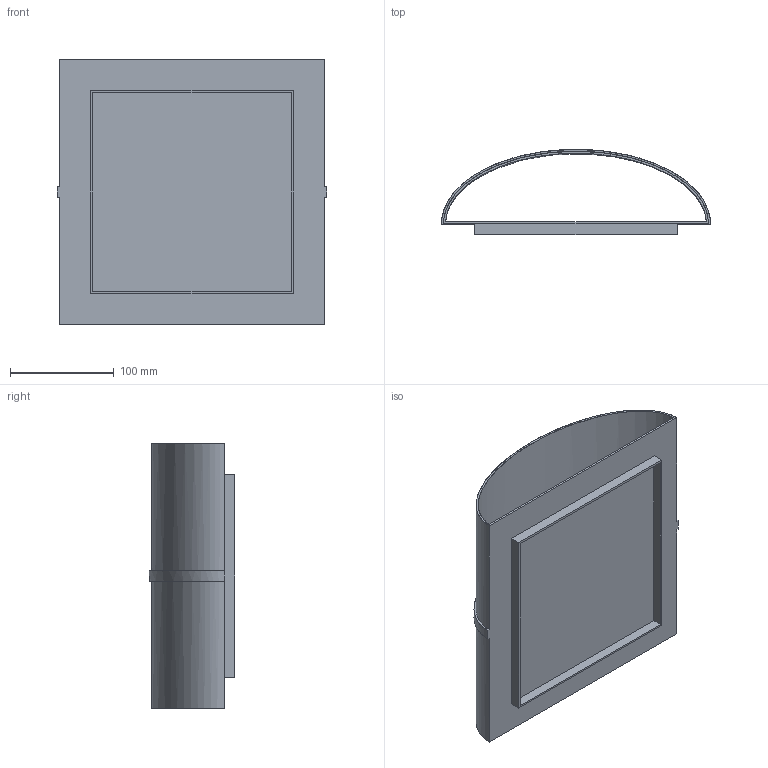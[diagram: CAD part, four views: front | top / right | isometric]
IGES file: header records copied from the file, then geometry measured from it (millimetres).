
Start section: SolidWorks IGES file using analytic representation for surfaces
Global section: file name: C:\Users\danielet\Desktop\3D CARLOS\MILANO-1632-3D\MILANO-1632-3D.IGS; native system: SolidWorks 2018; preprocessor: SolidWorks 2018; author: danielet; date: 220105.112349; units: millimetre
Bounding box: 259 x 82 x 255 mm (x, y, z)
Surface area: 306284 mm2 (no closed solid volume)
Topology: 0 solids, 0 shells, 20 faces, 340 edges, 340 vertices
Faces by surface type: bspline 20
